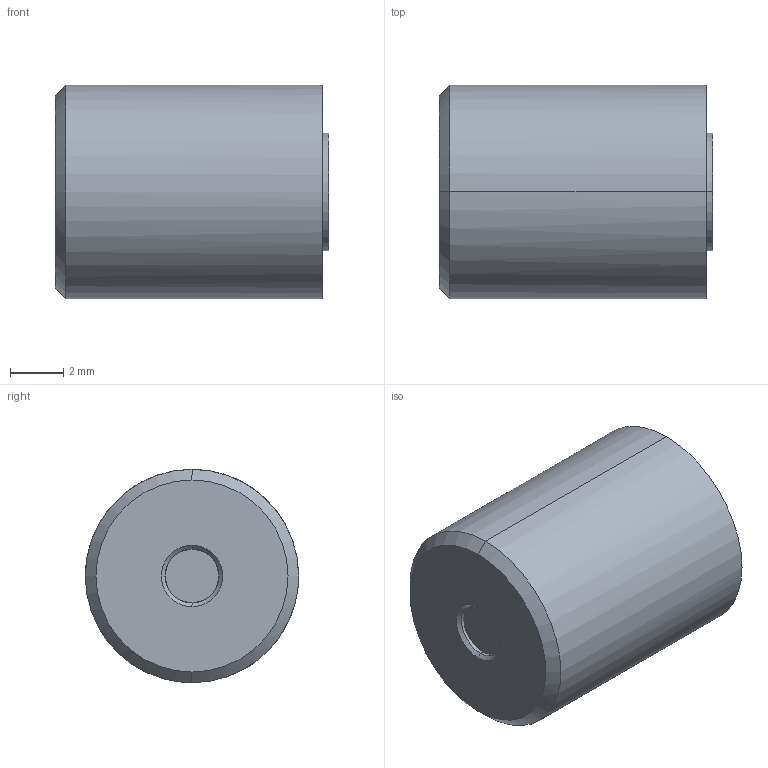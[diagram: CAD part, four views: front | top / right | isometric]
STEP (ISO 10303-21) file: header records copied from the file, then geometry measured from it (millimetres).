
FILE_DESCRIPTION(('CATIA V5 STEP Exchange'),'2;1');
FILE_NAME('C:\Users\Utente\Desktop\IO LAVORO\3D X SITO CF\X SITO\PLASTICA\D374\D374-8-A-DM-FA.stp','2021-03-30T10:36:03+00:00',('none'),('none'),'CATIA Version 5 Release 20 GA (IN-10)','CATIA V5 STEP AP203','none');
FILE_SCHEMA(('CONFIG_CONTROL_DESIGN'));
Length unit declared in the file: millimetre
Products named in the file (1): D374-8-A-DM-FA
Assembly tree (2 placements, depth 2):
  D374-8-A-DM-FA
    #58
    #6807
Bounding box: 10.25 x 8 x 8 mm (x, y, z)
Volume: 439.3 mm3; surface area: 597 mm2
Topology: 2 solids, 2 shells, 222 faces, 612 edges, 420 vertices
Faces by surface type: plane 137, cylinder 77, cone 8
Entity records: 7890 total; most frequent: CARTESIAN_POINT 2259, ORIENTED_EDGE 1224, DIRECTION 982, EDGE_CURVE 612, VERTEX_POINT 420, VECTOR 406, LINE 406, AXIS2_PLACEMENT_3D 351
